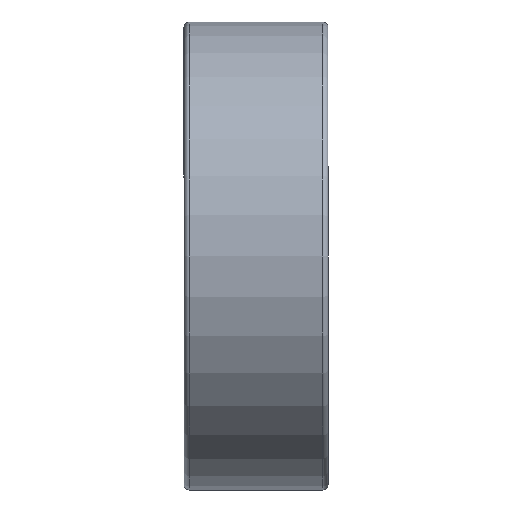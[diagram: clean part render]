
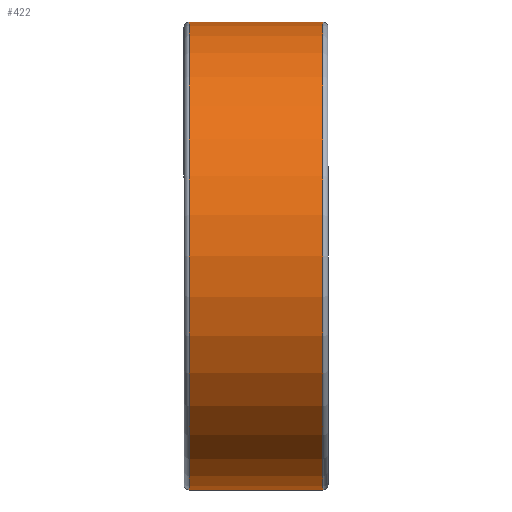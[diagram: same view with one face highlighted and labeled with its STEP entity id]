
A CAD part, front view. The second image highlights one B-rep face of the part: STEP entity #422.
In plain terms, the highlighted cylindrical face has radius 13 mm (diameter 26 mm), a full revolution.
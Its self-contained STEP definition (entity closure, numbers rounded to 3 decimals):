
#143=CYLINDRICAL_SURFACE('',#638,13.);
#211=EDGE_LOOP('',(#291));
#212=EDGE_LOOP('',(#292));
#291=ORIENTED_EDGE('',*,*,#339,.F.);
#292=ORIENTED_EDGE('',*,*,#337,.T.);
#337=EDGE_CURVE('',#581,#581,#357,.T.);
#339=EDGE_CURVE('',#583,#583,#359,.T.);
#357=CIRCLE('',#634,13.);
#359=CIRCLE('',#637,13.);
#422=ADVANCED_FACE('',(#515,#516),#143,.T.);
#515=FACE_BOUND('',#211,.T.);
#516=FACE_BOUND('',#212,.T.);
#581=VERTEX_POINT('',#2018);
#583=VERTEX_POINT('',#2023);
#634=AXIS2_PLACEMENT_3D('',#2017,#738,#739);
#637=AXIS2_PLACEMENT_3D('',#2022,#744,#745);
#638=AXIS2_PLACEMENT_3D('',#2024,#746,#747);
#738=DIRECTION('',(1.,0.,0.));
#739=DIRECTION('',(0.,0.,-1.));
#744=DIRECTION('',(1.,0.,0.));
#745=DIRECTION('',(0.,0.,-1.));
#746=DIRECTION('',(1.,0.,0.));
#747=DIRECTION('',(0.,0.,-1.));
#2017=CARTESIAN_POINT('',(-3.7,0.,0.));
#2018=CARTESIAN_POINT('',(-3.7,0.,-13.));
#2022=CARTESIAN_POINT('',(3.7,0.,0.));
#2023=CARTESIAN_POINT('',(3.7,0.,-13.));
#2024=CARTESIAN_POINT('',(-3.7,0.,0.));
